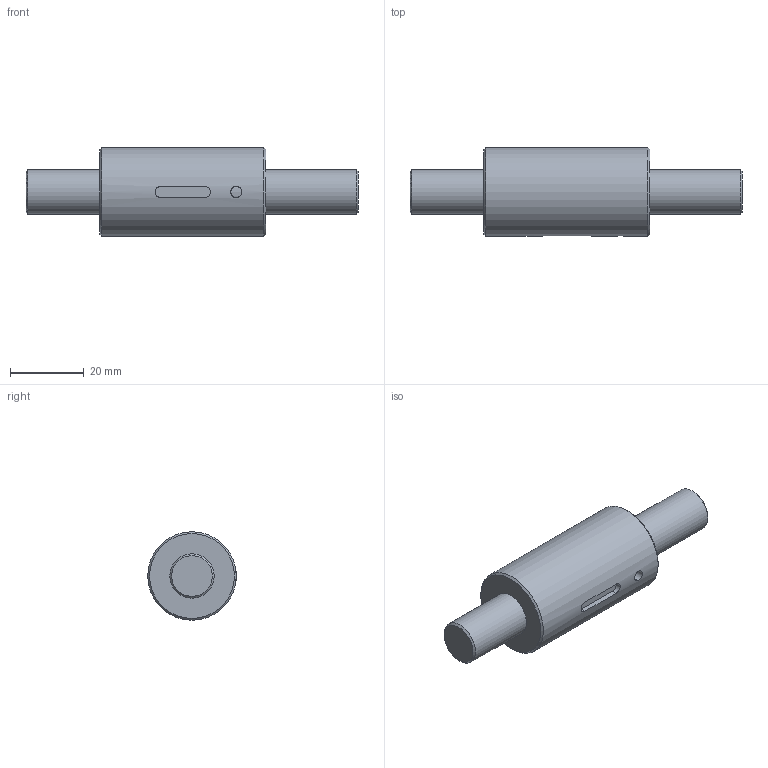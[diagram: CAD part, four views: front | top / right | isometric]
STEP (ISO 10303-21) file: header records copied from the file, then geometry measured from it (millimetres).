
FILE_DESCRIPTION (( 'STEP AP203' ), '1' );
FILE_NAME ('SCNH1210.STEP', '2023-08-16T07:47:47', ( '' ), ( '' ), 'SwSTEP 2.0', 'SolidWorks 2022', '' );
FILE_SCHEMA (( 'CONFIG_CONTROL_DESIGN' ));
Length unit declared in the file: millimetre
Products named in the file (1): SCNH1210
Bounding box: 90 x 24 x 24 mm (x, y, z)
Volume: 25313.3 mm3; surface area: 9409.6 mm2
Topology: 2 solids, 2 shells, 18 faces, 35 edges, 22 vertices
Faces by surface type: plane 7, cylinder 5, cone 4, bspline 2
Full cylindrical faces by diameter (mm): 12 x2, 24 x1
Entity records: 923 total; most frequent: CARTESIAN_POINT 503, DIRECTION 68, ORIENTED_EDGE 56, EDGE_LOOP 30, AXIS2_PLACEMENT_3D 29, EDGE_CURVE 28, VERTEX_POINT 22, FACE_OUTER_BOUND 21
